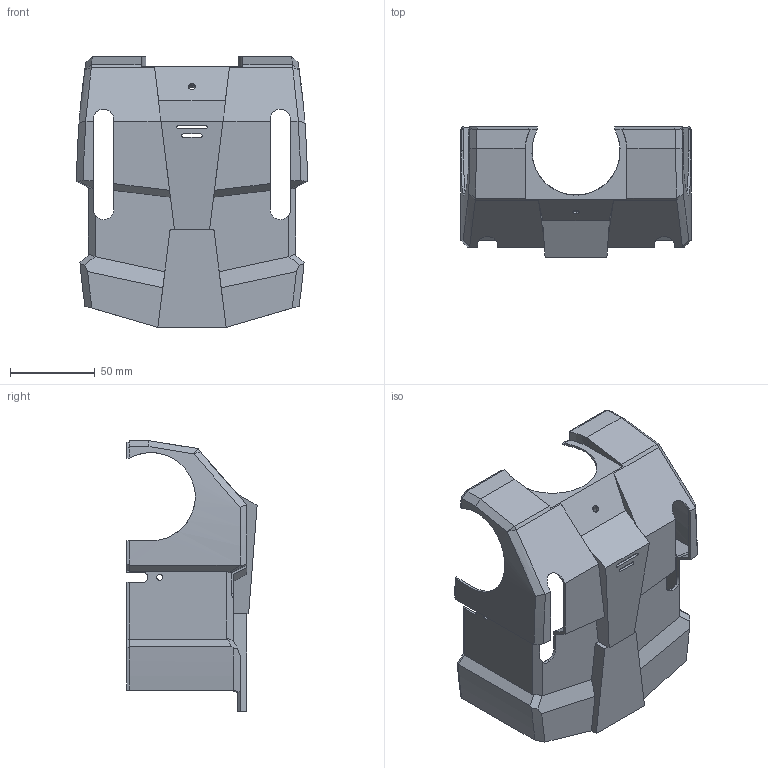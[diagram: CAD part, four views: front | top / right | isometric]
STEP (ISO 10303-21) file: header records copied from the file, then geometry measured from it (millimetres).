
FILE_DESCRIPTION((''),'2;1');
FILE_NAME('OP3_FRONT_BODY_CASE_VER1','2017-07-24T',('kimdolyang'),(''),'PRO/ENGINEER BY PARAMETRIC TECHNOLOGY CORPORATION, 2013410','PRO/ENGINEER BY PARAMETRIC TECHNOLOGY CORPORATION, 2013410','');
FILE_SCHEMA(('CONFIG_CONTROL_DESIGN'));
Length unit declared in the file: millimetre
Products named in the file (1): OP3_FRONT_BODY_CASE_VER1
Bounding box: 135.97 x 76.75 x 159.48 mm (x, y, z)
Volume: 64531.9 mm3; surface area: 86355.8 mm2
Topology: 1 solids, 1 shells, 274 faces, 788 edges, 514 vertices
Faces by surface type: plane 199, cylinder 57, bspline 8, cone 8, extrusion 2
Entity records: 9350 total; most frequent: CARTESIAN_POINT 2256, ORIENTED_EDGE 1576, DIRECTION 1310, EDGE_CURVE 788, VECTOR 558, LINE 556, VERTEX_POINT 514, AXIS2_PLACEMENT_3D 376
